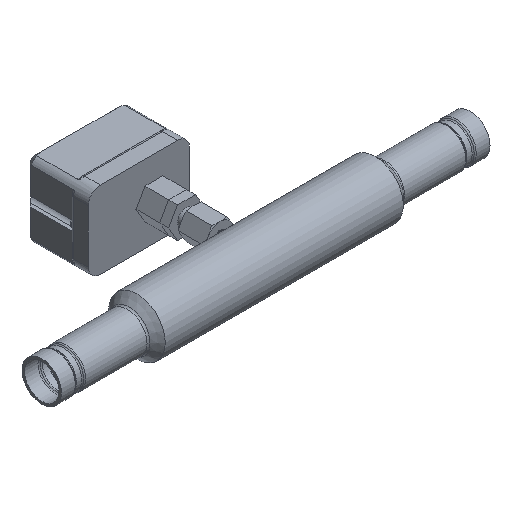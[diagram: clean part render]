
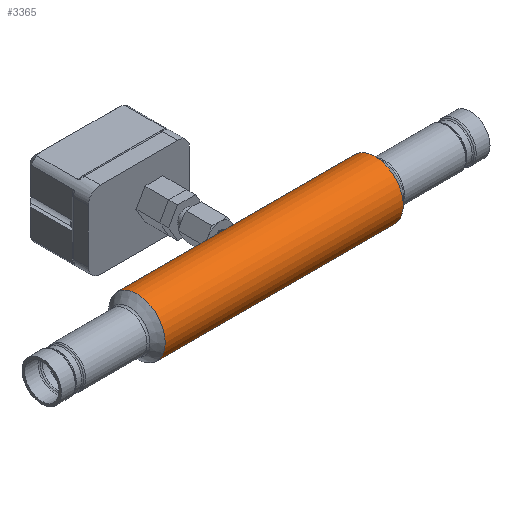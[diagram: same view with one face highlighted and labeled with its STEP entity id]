
A CAD part, isometric view. The second image highlights one B-rep face of the part: STEP entity #3365.
In plain terms, the highlighted cylindrical face has radius 30.163 mm (diameter 60.325 mm), a full revolution.
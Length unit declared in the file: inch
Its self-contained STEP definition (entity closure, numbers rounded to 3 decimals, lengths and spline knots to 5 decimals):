
#97=FACE_BOUND('',#565,.T.);
#200=CYLINDRICAL_SURFACE('',#3736,1.1875);
#374=FACE_OUTER_BOUND('',#564,.T.);
#564=EDGE_LOOP('',(#2911,#2912,#2913,#2914,#2915,#2916));
#565=EDGE_LOOP('',(#2917,#2918));
#753=CIRCLE('',#3731,1.1875);
#754=CIRCLE('',#3732,1.1875);
#755=CIRCLE('',#3734,1.1875);
#756=CIRCLE('',#3735,1.1875);
#843=B_SPLINE_CURVE_WITH_KNOTS('',3,(#16073,#16074,#16075,#16076,#16077,
#16078,#16079,#16080,#16081,#16082,#16083,#16084,#16085,#16086,#16087,#16088,
#16089,#16090,#16091,#16092,#16093,#16094,#16095,#16096,#16097,#16098),
 .UNSPECIFIED.,.F.,.F.,(4,2,2,2,2,2,2,2,2,2,2,2,4),(0.,0.2093,
0.41861,0.62804,0.83748,1.04692,
1.25635,1.46566,1.67496,1.88426,2.09357,
2.30301,2.51244),.UNSPECIFIED.);
#844=B_SPLINE_CURVE_WITH_KNOTS('',3,(#16099,#16100,#16101,#16102,#16103,
#16104,#16105,#16106,#16107,#16108),.UNSPECIFIED.,.F.,.F.,(4,2,2,2,4),(2.51244,
2.72188,2.93132,3.14062,3.34992),
 .UNSPECIFIED.);
#1021=LINE('',#16361,#1199);
#1199=VECTOR('',#4612,1.1875);
#1437=VERTEX_POINT('',#16071);
#1438=VERTEX_POINT('',#16072);
#1508=VERTEX_POINT('',#16351);
#1509=VERTEX_POINT('',#16352);
#1510=VERTEX_POINT('',#16356);
#1511=VERTEX_POINT('',#16357);
#1878=EDGE_CURVE('',#1437,#1438,#843,.T.);
#1879=EDGE_CURVE('',#1438,#1437,#844,.T.);
#1985=EDGE_CURVE('',#1508,#1509,#753,.T.);
#1986=EDGE_CURVE('',#1509,#1508,#754,.T.);
#1987=EDGE_CURVE('',#1510,#1511,#755,.T.);
#1988=EDGE_CURVE('',#1511,#1510,#756,.T.);
#1989=EDGE_CURVE('',#1511,#1509,#1021,.T.);
#2911=ORIENTED_EDGE('',*,*,#1987,.F.);
#2912=ORIENTED_EDGE('',*,*,#1988,.F.);
#2913=ORIENTED_EDGE('',*,*,#1989,.T.);
#2914=ORIENTED_EDGE('',*,*,#1985,.F.);
#2915=ORIENTED_EDGE('',*,*,#1986,.F.);
#2916=ORIENTED_EDGE('',*,*,#1989,.F.);
#2917=ORIENTED_EDGE('',*,*,#1878,.T.);
#2918=ORIENTED_EDGE('',*,*,#1879,.T.);
#3365=ADVANCED_FACE('',(#374,#97),#200,.T.);
#3731=AXIS2_PLACEMENT_3D('',#16353,#4600,#4601);
#3732=AXIS2_PLACEMENT_3D('',#16354,#4602,#4603);
#3734=AXIS2_PLACEMENT_3D('',#16358,#4606,#4607);
#3735=AXIS2_PLACEMENT_3D('',#16359,#4608,#4609);
#3736=AXIS2_PLACEMENT_3D('',#16360,#4610,#4611);
#4600=DIRECTION('center_axis',(-1.,0.,0.));
#4601=DIRECTION('ref_axis',(0.,1.,0.));
#4602=DIRECTION('center_axis',(-1.,0.,0.));
#4603=DIRECTION('ref_axis',(0.,1.,0.));
#4606=DIRECTION('center_axis',(1.,0.,0.));
#4607=DIRECTION('ref_axis',(0.,1.,0.));
#4608=DIRECTION('center_axis',(1.,0.,0.));
#4609=DIRECTION('ref_axis',(0.,1.,0.));
#4610=DIRECTION('center_axis',(1.,0.,0.));
#4611=DIRECTION('ref_axis',(0.,1.,0.));
#4612=DIRECTION('',(-1.,0.,0.));
#16071=CARTESIAN_POINT('',(14.17023,6.19705,6.96798));
#16072=CARTESIAN_POINT('',(14.38884,6.21723,6.75));
#16073=CARTESIAN_POINT('Ctrl Pts',(14.17023,6.19705,6.96798));
#16074=CARTESIAN_POINT('Ctrl Pts',(14.14276,6.19705,6.96798));
#16075=CARTESIAN_POINT('Ctrl Pts',(14.1135,6.19812,6.9625));
#16076=CARTESIAN_POINT('Ctrl Pts',(14.0597,6.20194,6.94029));
#16077=CARTESIAN_POINT('Ctrl Pts',(14.03517,6.20464,6.92357));
#16078=CARTESIAN_POINT('Ctrl Pts',(13.99639,6.2097,6.88496));
#16079=CARTESIAN_POINT('Ctrl Pts',(13.97954,6.21239,6.86049));
#16080=CARTESIAN_POINT('Ctrl Pts',(13.95715,6.21618,6.80675));
#16081=CARTESIAN_POINT('Ctrl Pts',(13.95162,6.21723,6.77749));
#16082=CARTESIAN_POINT('Ctrl Pts',(13.95162,6.21723,6.72251));
#16083=CARTESIAN_POINT('Ctrl Pts',(13.95715,6.21618,6.69325));
#16084=CARTESIAN_POINT('Ctrl Pts',(13.97954,6.21239,6.63951));
#16085=CARTESIAN_POINT('Ctrl Pts',(13.99639,6.2097,6.61504));
#16086=CARTESIAN_POINT('Ctrl Pts',(14.03517,6.20464,6.57643));
#16087=CARTESIAN_POINT('Ctrl Pts',(14.0597,6.20194,6.55971));
#16088=CARTESIAN_POINT('Ctrl Pts',(14.1135,6.19812,6.5375));
#16089=CARTESIAN_POINT('Ctrl Pts',(14.14276,6.19705,6.53202));
#16090=CARTESIAN_POINT('Ctrl Pts',(14.1977,6.19705,6.53202));
#16091=CARTESIAN_POINT('Ctrl Pts',(14.22696,6.19812,6.5375));
#16092=CARTESIAN_POINT('Ctrl Pts',(14.28075,6.20194,6.55971));
#16093=CARTESIAN_POINT('Ctrl Pts',(14.30529,6.20464,6.57643));
#16094=CARTESIAN_POINT('Ctrl Pts',(14.34407,6.2097,6.61504));
#16095=CARTESIAN_POINT('Ctrl Pts',(14.36092,6.21239,6.63951));
#16096=CARTESIAN_POINT('Ctrl Pts',(14.3833,6.21618,6.69325));
#16097=CARTESIAN_POINT('Ctrl Pts',(14.38884,6.21723,6.72251));
#16098=CARTESIAN_POINT('Ctrl Pts',(14.38884,6.21723,6.75));
#16099=CARTESIAN_POINT('Ctrl Pts',(14.38884,6.21723,6.75));
#16100=CARTESIAN_POINT('Ctrl Pts',(14.38884,6.21723,6.77749));
#16101=CARTESIAN_POINT('Ctrl Pts',(14.3833,6.21618,6.80675));
#16102=CARTESIAN_POINT('Ctrl Pts',(14.36092,6.21239,6.86049));
#16103=CARTESIAN_POINT('Ctrl Pts',(14.34407,6.2097,6.88496));
#16104=CARTESIAN_POINT('Ctrl Pts',(14.30529,6.20464,6.92357));
#16105=CARTESIAN_POINT('Ctrl Pts',(14.28075,6.20194,6.94029));
#16106=CARTESIAN_POINT('Ctrl Pts',(14.22696,6.19812,6.9625));
#16107=CARTESIAN_POINT('Ctrl Pts',(14.1977,6.19705,6.96798));
#16108=CARTESIAN_POINT('Ctrl Pts',(14.17023,6.19705,6.96798));
#16351=CARTESIAN_POINT('',(9.17023,6.21723,6.75));
#16352=CARTESIAN_POINT('',(9.17023,3.84223,6.75));
#16353=CARTESIAN_POINT('Origin',(9.17023,5.02973,6.75));
#16354=CARTESIAN_POINT('Origin',(9.17023,5.02973,6.75));
#16356=CARTESIAN_POINT('',(19.17023,6.21723,6.75));
#16357=CARTESIAN_POINT('',(19.17023,3.84223,6.75));
#16358=CARTESIAN_POINT('Origin',(19.17023,5.02973,6.75));
#16359=CARTESIAN_POINT('Origin',(19.17023,5.02973,6.75));
#16360=CARTESIAN_POINT('Origin',(14.17023,5.02973,6.75));
#16361=CARTESIAN_POINT('',(14.17023,3.84223,6.75));
